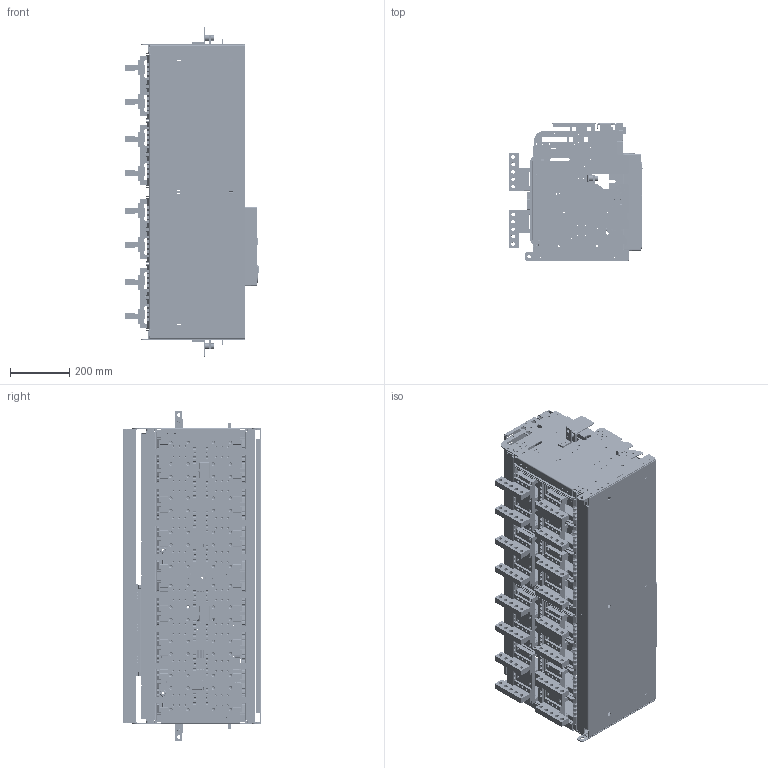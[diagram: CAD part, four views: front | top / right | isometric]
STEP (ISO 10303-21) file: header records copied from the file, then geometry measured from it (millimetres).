
FILE_DESCRIPTION((''),'2;1');
FILE_NAME('HG_26_D404V_ASM_ASM','2019-03-27T',('HHI'),(''),'PRO/ENGINEER BY PARAMETRIC TECHNOLOGY CORPORATION, 2012453','PRO/ENGINEER BY PARAMETRIC TECHNOLOGY CORPORATION, 2012453','');
FILE_SCHEMA(('CONFIG_CONTROL_DESIGN'));
Products named in the file (56): 3AT-03371_5; PRT0471; MAIN_SC-DR-FRAME_L_53_ASM_ASM_ASM; 1AT-00887S02_ASM_6_ASM_ASM_ASM; 3AT-04943_5; PRT0472; PRT0473; MAIN_SC-DR-FRAME_R_52_ASM_ASM_ASM; 1AT-00888S02_ASM_6_ASM_ASM_ASM; 3AT-04945_5; CONTROL_JACK_FOR_CRADLE_5; 9239000363_ASM_6_ASM_ASM_ASM; 1AT-00880S08_ASM_6_ASM_ASM_ASM; 3AT-05064_5; 4AT-06870_5; 3AT-05065_ASM_5_ASM_ASM_ASM; 1AT-00752_AF0_5; ACB_HEX_NUT_M6_5; 1AT-01051_ASM_5_ASM_ASM_ASM; 3AT-05066_5; 3AT-05067_ASM_5_ASM_ASM_ASM; 3AT-05062_5; 3AT-05072_2; 3AT-05068_ASM_3_ASM_ASM_ASM; D63V_2; PRT0474; PRT0476; PRT0477; PRT0478; PRT0479; ASM0131_ASM; PRT0480; PRT0481; PRT0482; ASM0132_ASM; PRT0485; ASM0130_ASM; PRT0486; PRT0487; ASM0129_ASM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
Assembly tree (162 placements, depth 6):
  HG_26_D404V_ASM_ASM
    D404V_ASM_2_ASM_ASM_ASM
      1AT-00887S02_ASM_6_ASM_ASM_ASM
        3AT-03371_5
        MAIN_SC-DR-FRAME_L_53_ASM_ASM_ASM
          PRT0471
      3AT-04943_5
      1AT-00888S02_ASM_6_ASM_ASM_ASM
        MAIN_SC-DR-FRAME_R_52_ASM_ASM_ASM
          PRT0472
          PRT0473
      1AT-00880S08_ASM_6_ASM_ASM_ASM
        3AT-04945_5
        9239000363_ASM_6_ASM_ASM_ASM
          CONTROL_JACK_FOR_CRADLE_5
      3AT-05065_ASM_5_ASM_ASM_ASM
        3AT-05064_5
        4AT-06870_5  x10
      1AT-01051_ASM_5_ASM_ASM_ASM  x2
        1AT-00752_AF0_5
        ACB_HEX_NUT_M6_5
      3AT-05067_ASM_5_ASM_ASM_ASM
        3AT-05066_5
        4AT-06870_5  x8
      3AT-05062_5  x32
      3AT-05068_ASM_3_ASM_ASM_ASM  x8
        3AT-05072_2
      D63V_2  x16
      ASM0129_ASM
        ASM0130_ASM
          PRT0474
          ASM0131_ASM
            PRT0476
            PRT0477
            PRT0478
            PRT0479
          ASM0132_ASM
            PRT0480
            PRT0481
            PRT0482
          PRT0485
        PRT0486  x2
        PRT0487
      ASM0133_ASM
        PRT0488
        PRT0489
        PRT0490
        PRT0491
      ASM0134_ASM
        PRT0492
        PRT0493
        FIX_BLOCK_CRADLE_6
        BOLT_5
      U_ARC_SHIELD_634_2
    HG_FRONT_COVER_40
    4AT-06477S03
    4AT-06477S04
Bounding box: 453.03 x 466.35 x 1108.2 mm (x, y, z)
Volume: 14784555.3 mm3; surface area: 7294392.2 mm2
Topology: 181 solids, 181 shells, 21627 faces, 62472 edges, 40733 vertices
Faces by surface type: plane 15140, cylinder 5054, cone 676, torus 269, sphere 240, extrusion 141, bspline 107
Entity records: 536574 total; most frequent: CARTESIAN_POINT 102327, ORIENTED_EDGE 93538, DIRECTION 85565, EDGE_CURVE 46769, VECTOR 38613, LINE 38472, VERTEX_POINT 30601, AXIS2_PLACEMENT_3D 23476
